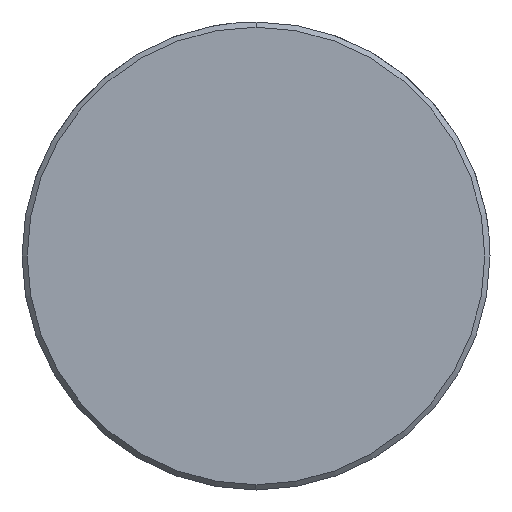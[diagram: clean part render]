
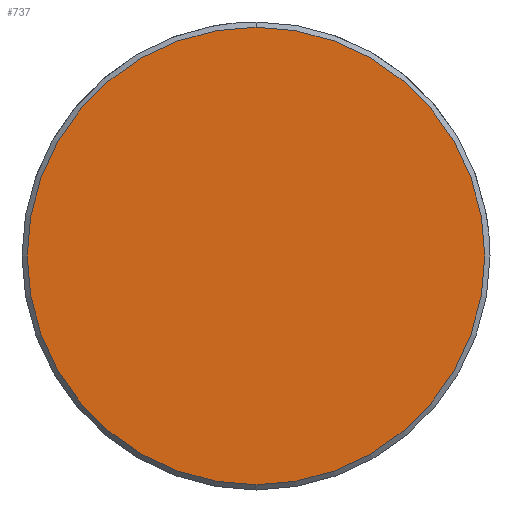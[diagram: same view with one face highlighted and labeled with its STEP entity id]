
A CAD part, left-side view. The second image highlights one B-rep face of the part: STEP entity #737.
In plain terms, the highlighted planar face has unit normal (-1, 0, 0).
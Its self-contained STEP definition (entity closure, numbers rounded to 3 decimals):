
#669=CARTESIAN_POINT('Vertex',(0.,0.,-13.2)) ;
#672=CARTESIAN_POINT('Axis2P3D Location',(0.,0.,0.)) ;
#676=CARTESIAN_POINT('Vertex',(0.,13.2,0.)) ;
#679=CARTESIAN_POINT('Axis2P3D Location',(0.,0.,0.)) ;
#683=CARTESIAN_POINT('Vertex',(0.,0.,13.2)) ;
#705=CARTESIAN_POINT('Axis2P3D Location',(0.,0.,0.)) ;
#709=CARTESIAN_POINT('Vertex',(0.,-13.2,0.)) ;
#712=CARTESIAN_POINT('Axis2P3D Location',(0.,0.,0.)) ;
#726=CARTESIAN_POINT('Axis2P3D Location',(0.,0.,0.)) ;
#673=DIRECTION('Axis2P3D Direction',(1.,0.,-0.)) ;
#680=DIRECTION('Axis2P3D Direction',(1.,0.,-0.)) ;
#706=DIRECTION('Axis2P3D Direction',(1.,0.,-0.)) ;
#713=DIRECTION('Axis2P3D Direction',(1.,0.,-0.)) ;
#727=DIRECTION('Axis2P3D Direction',(1.,0.,-0.)) ;
#728=DIRECTION('Axis2P3D XDirection',(-0.,0.,-1.)) ;
#674=AXIS2_PLACEMENT_3D('Circle Axis2P3D',#672,#673,$) ;
#681=AXIS2_PLACEMENT_3D('Circle Axis2P3D',#679,#680,$) ;
#707=AXIS2_PLACEMENT_3D('Circle Axis2P3D',#705,#706,$) ;
#714=AXIS2_PLACEMENT_3D('Circle Axis2P3D',#712,#713,$) ;
#729=AXIS2_PLACEMENT_3D('Plane Axis2P3D',#726,#727,#728) ;
#732=ORIENTED_EDGE('',*,*,#678,.F.) ;
#733=ORIENTED_EDGE('',*,*,#716,.F.) ;
#734=ORIENTED_EDGE('',*,*,#711,.F.) ;
#735=ORIENTED_EDGE('',*,*,#685,.F.) ;
#737=ADVANCED_FACE('549-24X240',(#736),#730,.F.) ;
#675=CIRCLE('generated circle',#674,13.2) ;
#682=CIRCLE('generated circle',#681,13.2) ;
#708=CIRCLE('generated circle',#707,13.2) ;
#715=CIRCLE('generated circle',#714,13.2) ;
#678=EDGE_CURVE('',#670,#677,#675,.T.) ;
#685=EDGE_CURVE('',#677,#684,#682,.T.) ;
#711=EDGE_CURVE('',#684,#710,#708,.T.) ;
#716=EDGE_CURVE('',#710,#670,#715,.T.) ;
#731=EDGE_LOOP('',(#732,#733,#734,#735)) ;
#736=FACE_OUTER_BOUND('',#731,.T.) ;
#730=PLANE('Plane',#729) ;
#670=VERTEX_POINT('',#669) ;
#677=VERTEX_POINT('',#676) ;
#684=VERTEX_POINT('',#683) ;
#710=VERTEX_POINT('',#709) ;
